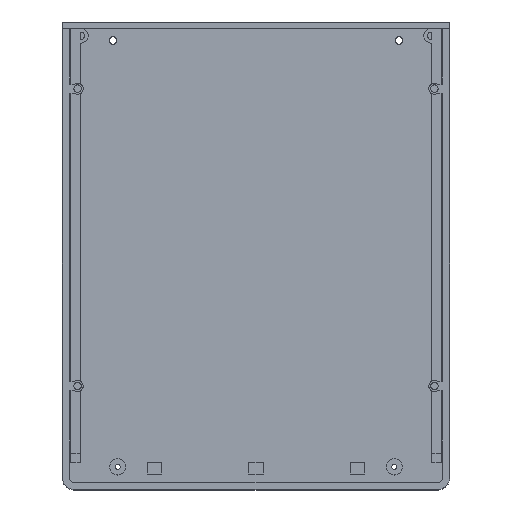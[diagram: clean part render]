
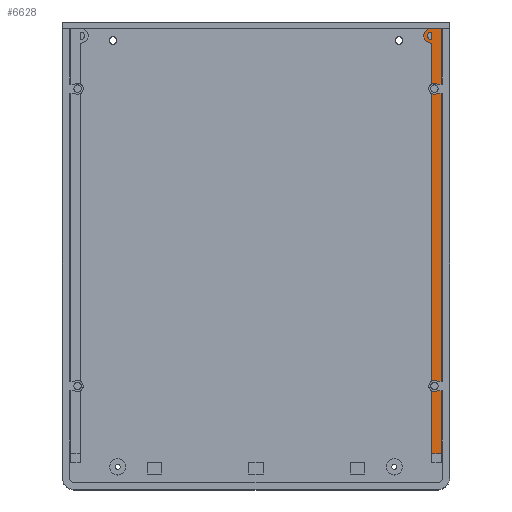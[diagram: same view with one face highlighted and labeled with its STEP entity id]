
A CAD part, top view. The second image highlights one B-rep face of the part: STEP entity #6628.
In plain terms, the highlighted planar face has unit normal (0, 0, 1).
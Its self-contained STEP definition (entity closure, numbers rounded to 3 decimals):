
#151 = PLANE('',#152);
#152 = AXIS2_PLACEMENT_3D('',#153,#154,#155);
#153 = CARTESIAN_POINT('',(-1.,200.,1.4));
#154 = DIRECTION('',(0.,1.,0.));
#155 = DIRECTION('',(0.,0.,1.));
#1556 = VERTEX_POINT('',#1557);
#1557 = CARTESIAN_POINT('',(158.886,200.,3.2));
#1570 = CYLINDRICAL_SURFACE('',#1571,3.2);
#1571 = AXIS2_PLACEMENT_3D('',#1572,#1573,#1574);
#1572 = CARTESIAN_POINT('',(160.,197.,2.8));
#1573 = DIRECTION('',(-0.,-0.,-1.));
#1574 = DIRECTION('',(1.,0.,0.));
#1581 = EDGE_CURVE('',#1582,#1556,#1584,.T.);
#1582 = VERTEX_POINT('',#1583);
#1583 = CARTESIAN_POINT('',(164.3,200.,3.2));
#1584 = SURFACE_CURVE('',#1585,(#1589,#1595),.PCURVE_S1.);
#1585 = LINE('',#1586,#1587);
#1586 = CARTESIAN_POINT('',(79.65,200.,3.2));
#1587 = VECTOR('',#1588,1.);
#1588 = DIRECTION('',(-1.,0.,0.));
#1589 = PCURVE('',#151,#1590);
#1590 = DEFINITIONAL_REPRESENTATION('',(#1591),#1594);
#1591 = B_SPLINE_CURVE_WITH_KNOTS('',1,(#1592,#1593),.UNSPECIFIED.,.F.,
  .F.,(2,2),(-84.65,-77.15),.PIECEWISE_BEZIER_KNOTS.);
#1592 = CARTESIAN_POINT('',(1.8,165.3));
#1593 = CARTESIAN_POINT('',(1.8,157.8));
#1594 = ( GEOMETRIC_REPRESENTATION_CONTEXT(2) 
PARAMETRIC_REPRESENTATION_CONTEXT() REPRESENTATION_CONTEXT('2D SPACE',''
  ) );
#1595 = PCURVE('',#1596,#1601);
#1596 = PLANE('',#1597);
#1597 = AXIS2_PLACEMENT_3D('',#1598,#1599,#1600);
#1598 = CARTESIAN_POINT('',(160.3,14.,3.2));
#1599 = DIRECTION('',(0.,0.,1.));
#1600 = DIRECTION('',(1.,0.,0.));
#1601 = DEFINITIONAL_REPRESENTATION('',(#1602),#1605);
#1602 = B_SPLINE_CURVE_WITH_KNOTS('',1,(#1603,#1604),.UNSPECIFIED.,.F.,
  .F.,(2,2),(-84.65,-77.15),.PIECEWISE_BEZIER_KNOTS.);
#1603 = CARTESIAN_POINT('',(4.,186.));
#1604 = CARTESIAN_POINT('',(-3.5,186.));
#1605 = ( GEOMETRIC_REPRESENTATION_CONTEXT(2) 
PARAMETRIC_REPRESENTATION_CONTEXT() REPRESENTATION_CONTEXT('2D SPACE',''
  ) );
#1622 = PLANE('',#1623);
#1623 = AXIS2_PLACEMENT_3D('',#1624,#1625,#1626);
#1624 = CARTESIAN_POINT('',(164.3,12.,2.8));
#1625 = DIRECTION('',(1.,0.,0.));
#1626 = DIRECTION('',(0.,0.,1.));
#5935 = PLANE('',#5936);
#5936 = AXIS2_PLACEMENT_3D('',#5937,#5938,#5939);
#5937 = CARTESIAN_POINT('',(160.3,12.,2.8));
#5938 = DIRECTION('',(1.,0.,0.));
#5939 = DIRECTION('',(0.,0.,1.));
#6528 = VERTEX_POINT('',#6529);
#6529 = CARTESIAN_POINT('',(164.3,15.7,3.2));
#6545 = PLANE('',#6546);
#6546 = AXIS2_PLACEMENT_3D('',#6547,#6548,#6549);
#6547 = CARTESIAN_POINT('',(160.3,15.7,2.8));
#6548 = DIRECTION('',(0.,1.,0.));
#6549 = DIRECTION('',(0.,0.,1.));
#6608 = EDGE_CURVE('',#6528,#1582,#6609,.T.);
#6609 = SURFACE_CURVE('',#6610,(#6614,#6621),.PCURVE_S1.);
#6610 = LINE('',#6611,#6612);
#6611 = CARTESIAN_POINT('',(164.3,14.,3.2));
#6612 = VECTOR('',#6613,1.);
#6613 = DIRECTION('',(0.,1.,0.));
#6614 = PCURVE('',#1622,#6615);
#6615 = DEFINITIONAL_REPRESENTATION('',(#6616),#6620);
#6616 = LINE('',#6617,#6618);
#6617 = CARTESIAN_POINT('',(0.4,-2.));
#6618 = VECTOR('',#6619,1.);
#6619 = DIRECTION('',(0.,-1.));
#6620 = ( GEOMETRIC_REPRESENTATION_CONTEXT(2) 
PARAMETRIC_REPRESENTATION_CONTEXT() REPRESENTATION_CONTEXT('2D SPACE',''
  ) );
#6621 = PCURVE('',#1596,#6622);
#6622 = DEFINITIONAL_REPRESENTATION('',(#6623),#6627);
#6623 = LINE('',#6624,#6625);
#6624 = CARTESIAN_POINT('',(4.,0.));
#6625 = VECTOR('',#6626,1.);
#6626 = DIRECTION('',(0.,1.));
#6627 = ( GEOMETRIC_REPRESENTATION_CONTEXT(2) 
PARAMETRIC_REPRESENTATION_CONTEXT() REPRESENTATION_CONTEXT('2D SPACE',''
  ) );
#6628 = ADVANCED_FACE('',(#6629,#6700),#1596,.T.);
#6629 = FACE_BOUND('',#6630,.T.);
#6630 = EDGE_LOOP('',(#6631,#6656,#6676,#6677,#6678));
#6631 = ORIENTED_EDGE('',*,*,#6632,.F.);
#6632 = EDGE_CURVE('',#6633,#6635,#6637,.T.);
#6633 = VERTEX_POINT('',#6634);
#6634 = CARTESIAN_POINT('',(160.3,15.7,3.2));
#6635 = VERTEX_POINT('',#6636);
#6636 = CARTESIAN_POINT('',(160.3,193.814,3.2));
#6637 = SURFACE_CURVE('',#6638,(#6642,#6649),.PCURVE_S1.);
#6638 = LINE('',#6639,#6640);
#6639 = CARTESIAN_POINT('',(160.3,14.,3.2));
#6640 = VECTOR('',#6641,1.);
#6641 = DIRECTION('',(0.,1.,0.));
#6642 = PCURVE('',#1596,#6643);
#6643 = DEFINITIONAL_REPRESENTATION('',(#6644),#6648);
#6644 = LINE('',#6645,#6646);
#6645 = CARTESIAN_POINT('',(0.,0.));
#6646 = VECTOR('',#6647,1.);
#6647 = DIRECTION('',(0.,1.));
#6648 = ( GEOMETRIC_REPRESENTATION_CONTEXT(2) 
PARAMETRIC_REPRESENTATION_CONTEXT() REPRESENTATION_CONTEXT('2D SPACE',''
  ) );
#6649 = PCURVE('',#5935,#6650);
#6650 = DEFINITIONAL_REPRESENTATION('',(#6651),#6655);
#6651 = LINE('',#6652,#6653);
#6652 = CARTESIAN_POINT('',(0.4,-2.));
#6653 = VECTOR('',#6654,1.);
#6654 = DIRECTION('',(0.,-1.));
#6655 = ( GEOMETRIC_REPRESENTATION_CONTEXT(2) 
PARAMETRIC_REPRESENTATION_CONTEXT() REPRESENTATION_CONTEXT('2D SPACE',''
  ) );
#6656 = ORIENTED_EDGE('',*,*,#6657,.F.);
#6657 = EDGE_CURVE('',#6528,#6633,#6658,.T.);
#6658 = SURFACE_CURVE('',#6659,(#6663,#6670),.PCURVE_S1.);
#6659 = LINE('',#6660,#6661);
#6660 = CARTESIAN_POINT('',(160.3,15.7,3.2));
#6661 = VECTOR('',#6662,1.);
#6662 = DIRECTION('',(-1.,0.,0.));
#6663 = PCURVE('',#1596,#6664);
#6664 = DEFINITIONAL_REPRESENTATION('',(#6665),#6669);
#6665 = LINE('',#6666,#6667);
#6666 = CARTESIAN_POINT('',(0.,1.7));
#6667 = VECTOR('',#6668,1.);
#6668 = DIRECTION('',(-1.,0.));
#6669 = ( GEOMETRIC_REPRESENTATION_CONTEXT(2) 
PARAMETRIC_REPRESENTATION_CONTEXT() REPRESENTATION_CONTEXT('2D SPACE',''
  ) );
#6670 = PCURVE('',#6545,#6671);
#6671 = DEFINITIONAL_REPRESENTATION('',(#6672),#6675);
#6672 = B_SPLINE_CURVE_WITH_KNOTS('',1,(#6673,#6674),.UNSPECIFIED.,.F.,
  .F.,(2,2),(-4.,0.),.PIECEWISE_BEZIER_KNOTS.);
#6673 = CARTESIAN_POINT('',(0.4,4.));
#6674 = CARTESIAN_POINT('',(0.4,0.));
#6675 = ( GEOMETRIC_REPRESENTATION_CONTEXT(2) 
PARAMETRIC_REPRESENTATION_CONTEXT() REPRESENTATION_CONTEXT('2D SPACE',''
  ) );
#6676 = ORIENTED_EDGE('',*,*,#6608,.T.);
#6677 = ORIENTED_EDGE('',*,*,#1581,.T.);
#6678 = ORIENTED_EDGE('',*,*,#6679,.T.);
#6679 = EDGE_CURVE('',#1556,#6635,#6680,.T.);
#6680 = SURFACE_CURVE('',#6681,(#6686,#6693),.PCURVE_S1.);
#6681 = CIRCLE('',#6682,3.2);
#6682 = AXIS2_PLACEMENT_3D('',#6683,#6684,#6685);
#6683 = CARTESIAN_POINT('',(160.,197.,3.2));
#6684 = DIRECTION('',(0.,0.,1.));
#6685 = DIRECTION('',(1.,0.,0.));
#6686 = PCURVE('',#1596,#6687);
#6687 = DEFINITIONAL_REPRESENTATION('',(#6688),#6692);
#6688 = CIRCLE('',#6689,3.2);
#6689 = AXIS2_PLACEMENT_2D('',#6690,#6691);
#6690 = CARTESIAN_POINT('',(-0.3,183.));
#6691 = DIRECTION('',(1.,0.));
#6692 = ( GEOMETRIC_REPRESENTATION_CONTEXT(2) 
PARAMETRIC_REPRESENTATION_CONTEXT() REPRESENTATION_CONTEXT('2D SPACE',''
  ) );
#6693 = PCURVE('',#1570,#6694);
#6694 = DEFINITIONAL_REPRESENTATION('',(#6695),#6699);
#6695 = LINE('',#6696,#6697);
#6696 = CARTESIAN_POINT('',(-0.,-0.4));
#6697 = VECTOR('',#6698,1.);
#6698 = DIRECTION('',(-1.,0.));
#6699 = ( GEOMETRIC_REPRESENTATION_CONTEXT(2) 
PARAMETRIC_REPRESENTATION_CONTEXT() REPRESENTATION_CONTEXT('2D SPACE',''
  ) );
#6700 = FACE_BOUND('',#6701,.T.);
#6701 = EDGE_LOOP('',(#6702,#6737));
#6702 = ORIENTED_EDGE('',*,*,#6703,.T.);
#6703 = EDGE_CURVE('',#6704,#6706,#6708,.T.);
#6704 = VERTEX_POINT('',#6705);
#6705 = CARTESIAN_POINT('',(160.3,195.428,3.2));
#6706 = VERTEX_POINT('',#6707);
#6707 = CARTESIAN_POINT('',(160.3,198.572,3.2));
#6708 = SURFACE_CURVE('',#6709,(#6714,#6725),.PCURVE_S1.);
#6709 = CIRCLE('',#6710,1.6);
#6710 = AXIS2_PLACEMENT_3D('',#6711,#6712,#6713);
#6711 = CARTESIAN_POINT('',(160.,197.,3.2));
#6712 = DIRECTION('',(0.,0.,-1.));
#6713 = DIRECTION('',(1.,0.,0.));
#6714 = PCURVE('',#1596,#6715);
#6715 = DEFINITIONAL_REPRESENTATION('',(#6716),#6724);
#6716 = ( BOUNDED_CURVE() B_SPLINE_CURVE(2,(#6717,#6718,#6719,#6720,
#6721,#6722,#6723),.UNSPECIFIED.,.T.,.F.) B_SPLINE_CURVE_WITH_KNOTS((1,2
    ,2,2,2,1),(-2.094,0.,2.094,4.189,
6.283,8.378),.UNSPECIFIED.) CURVE() 
GEOMETRIC_REPRESENTATION_ITEM() RATIONAL_B_SPLINE_CURVE((1.,0.5,1.,0.5,
1.,0.5,1.)) REPRESENTATION_ITEM('') );
#6717 = CARTESIAN_POINT('',(1.3,183.));
#6718 = CARTESIAN_POINT('',(1.3,180.229));
#6719 = CARTESIAN_POINT('',(-1.1,181.614));
#6720 = CARTESIAN_POINT('',(-3.5,183.));
#6721 = CARTESIAN_POINT('',(-1.1,184.386));
#6722 = CARTESIAN_POINT('',(1.3,185.771));
#6723 = CARTESIAN_POINT('',(1.3,183.));
#6724 = ( GEOMETRIC_REPRESENTATION_CONTEXT(2) 
PARAMETRIC_REPRESENTATION_CONTEXT() REPRESENTATION_CONTEXT('2D SPACE',''
  ) );
#6725 = PCURVE('',#6726,#6731);
#6726 = CYLINDRICAL_SURFACE('',#6727,1.6);
#6727 = AXIS2_PLACEMENT_3D('',#6728,#6729,#6730);
#6728 = CARTESIAN_POINT('',(160.,197.,0.));
#6729 = DIRECTION('',(-0.,-0.,-1.));
#6730 = DIRECTION('',(1.,0.,0.));
#6731 = DEFINITIONAL_REPRESENTATION('',(#6732),#6736);
#6732 = LINE('',#6733,#6734);
#6733 = CARTESIAN_POINT('',(-6.283,-3.2));
#6734 = VECTOR('',#6735,1.);
#6735 = DIRECTION('',(1.,-0.));
#6736 = ( GEOMETRIC_REPRESENTATION_CONTEXT(2) 
PARAMETRIC_REPRESENTATION_CONTEXT() REPRESENTATION_CONTEXT('2D SPACE',''
  ) );
#6737 = ORIENTED_EDGE('',*,*,#6738,.F.);
#6738 = EDGE_CURVE('',#6704,#6706,#6739,.T.);
#6739 = SURFACE_CURVE('',#6740,(#6744,#6751),.PCURVE_S1.);
#6740 = LINE('',#6741,#6742);
#6741 = CARTESIAN_POINT('',(160.3,14.,3.2));
#6742 = VECTOR('',#6743,1.);
#6743 = DIRECTION('',(0.,1.,0.));
#6744 = PCURVE('',#1596,#6745);
#6745 = DEFINITIONAL_REPRESENTATION('',(#6746),#6750);
#6746 = LINE('',#6747,#6748);
#6747 = CARTESIAN_POINT('',(0.,0.));
#6748 = VECTOR('',#6749,1.);
#6749 = DIRECTION('',(0.,1.));
#6750 = ( GEOMETRIC_REPRESENTATION_CONTEXT(2) 
PARAMETRIC_REPRESENTATION_CONTEXT() REPRESENTATION_CONTEXT('2D SPACE',''
  ) );
#6751 = PCURVE('',#6752,#6757);
#6752 = PLANE('',#6753);
#6753 = AXIS2_PLACEMENT_3D('',#6754,#6755,#6756);
#6754 = CARTESIAN_POINT('',(160.3,12.,2.8));
#6755 = DIRECTION('',(1.,0.,0.));
#6756 = DIRECTION('',(0.,0.,1.));
#6757 = DEFINITIONAL_REPRESENTATION('',(#6758),#6762);
#6758 = LINE('',#6759,#6760);
#6759 = CARTESIAN_POINT('',(0.4,-2.));
#6760 = VECTOR('',#6761,1.);
#6761 = DIRECTION('',(0.,-1.));
#6762 = ( GEOMETRIC_REPRESENTATION_CONTEXT(2) 
PARAMETRIC_REPRESENTATION_CONTEXT() REPRESENTATION_CONTEXT('2D SPACE',''
  ) );
